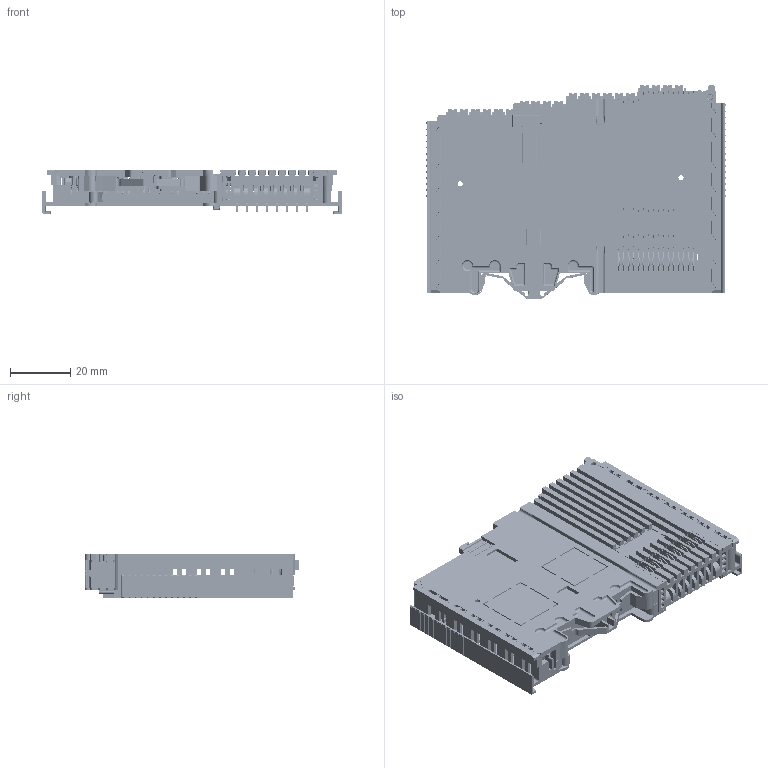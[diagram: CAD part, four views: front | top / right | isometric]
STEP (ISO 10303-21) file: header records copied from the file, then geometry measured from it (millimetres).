
FILE_DESCRIPTION((''),'2;1');
FILE_NAME('IO00_ASM','2023-10-11T19:11:05',('wmy'),(''),'CREO PARAMETRIC BY PTC INC, 2021063','CREO PARAMETRIC BY PTC INC, 2021063','');
FILE_SCHEMA(('CONFIG_CONTROL_DESIGN','SHAPE_APPEARANCE_LAYERS_GROUPS'));
Products named in the file (36): YOUGAIBAN230227; PCB; ZUOGAIBAN230227; SM23008-R2; 0009; 0006; 00; 4P000; 0014; 2023041800; _64200001_ASM; _83320001_ASM; _100970001_ASM; _53460001_ASM; KMK-381-04_1000_ASM; _175460001_ASM; _339700001_ASM; 6P000; _211250001_ASM; _163870001_ASM; _49350001_ASM; _86430001_ASM; KMK-381-06_1000_ASM; 2P-0001; 2P-0002; 2P000; 2P000_ASM; _10002; _10003; _10004; _10005; _10001_ASM; ASM0001_ASM; IO00_ASM
Assembly tree (78 placements, depth 4):
  IO00_ASM
    YOUGAIBAN230227
    PCB
    ZUOGAIBAN230227
    SM23008-R2
    0009
    0006
    KMK-381-04_1000_ASM  x2
      00
      4P000
      _64200001_ASM
        0014
        2023041800
      4P000
      _83320001_ASM
        0014
        2023041800
      _100970001_ASM
        2023041800
        0014
      _53460001_ASM
        2023041800
        0014
    KMK-381-06_1000_ASM  x2
      00
      _175460001_ASM
        0014
        2023041800
      _339700001_ASM
        0014
        2023041800
      6P000
      _211250001_ASM
        2023041800
        0014
      _163870001_ASM
        2023041800
        0014
      _49350001_ASM
        2023041800
        0014
      6P000
      _86430001_ASM
        2023041800
        0014
    2P000_ASM
      2P-0001
      2P-0002
      2P000
    ASM0001_ASM
      _10001_ASM
        _10002  x8
        _10003  x8
        _10004
        _10005
Bounding box: 99.8 x 71.47 x 14.7 mm (x, y, z)
Volume: 32600.6 mm3; surface area: 74561.4 mm2
Topology: 95 solids, 95 shells, 12890 faces, 35522 edges, 22832 vertices
Faces by surface type: plane 8007, cylinder 3483, cone 627, torus 436, bspline 249, sphere 68, extrusion 20
Entity records: 253241 total; most frequent: CARTESIAN_POINT 49378, ORIENTED_EDGE 36148, DIRECTION 34809, EDGE_CURVE 18074, VECTOR 12825, LINE 12824, VERTEX_POINT 11617, AXIS2_PLACEMENT_3D 10992
